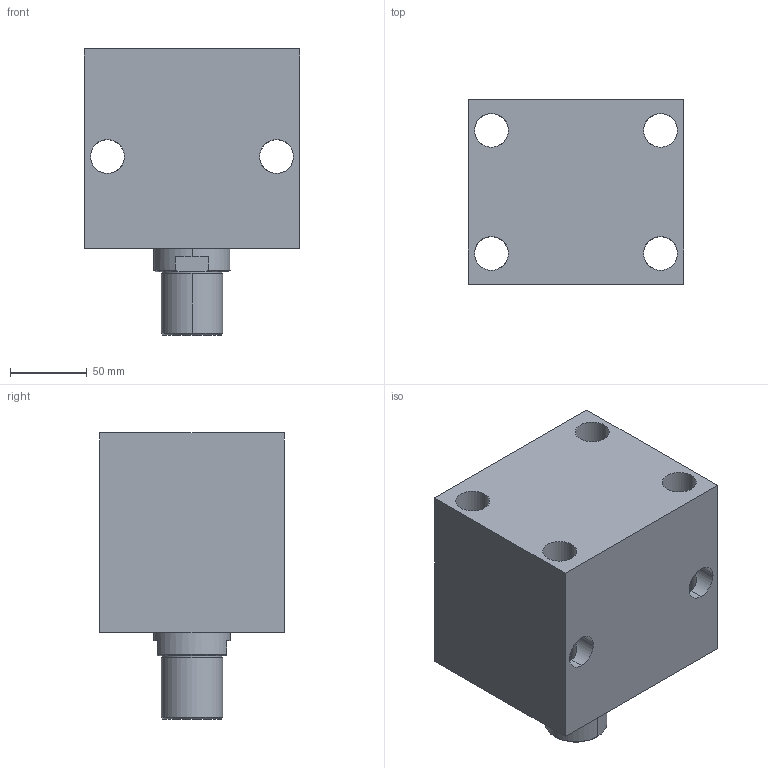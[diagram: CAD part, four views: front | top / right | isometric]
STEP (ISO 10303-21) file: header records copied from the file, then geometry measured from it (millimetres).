
FILE_DESCRIPTION (( 'STEP AP203' ), '1' );
FILE_NAME ('Block cylinder B01C-850M.STEP', '2022-07-09T18:18:56', ( '' ), ( '' ), 'SwSTEP 2.0', 'SolidWorks 2017', '' );
FILE_SCHEMA (( 'CONFIG_CONTROL_DESIGN' ));
Length unit declared in the file: millimetre
Products named in the file (3): Body_ 850M_50ST; Piston _850M; Block cylinder B01C-850M
Assembly tree (2 placements, depth 2):
  Block cylinder B01C-850M
    Body_ 850M_50ST
    Piston _850M
Bounding box: 140 x 120 x 186 mm (x, y, z)
Volume: 2178688.6 mm3; surface area: 180455.3 mm2
Topology: 2 solids, 2 shells, 363 faces, 987 edges, 646 vertices
Faces by surface type: bspline 166, plane 143, cylinder 46, cone 8
Entity records: 18452 total; most frequent: CARTESIAN_POINT 10169, ORIENTED_EDGE 1966, DIRECTION 1087, EDGE_CURVE 983, VERTEX_POINT 646, LINE 547, VECTOR 547, EDGE_LOOP 405
